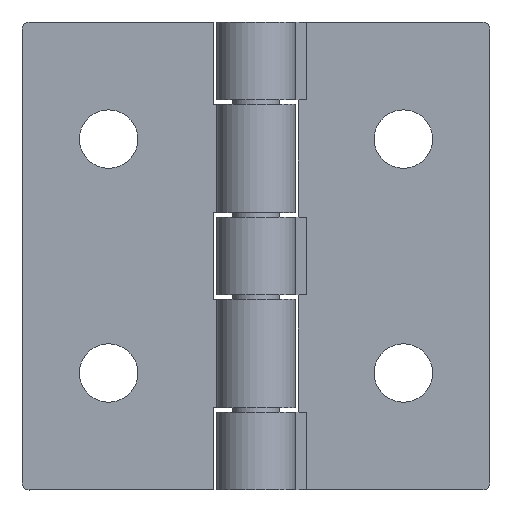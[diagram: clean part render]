
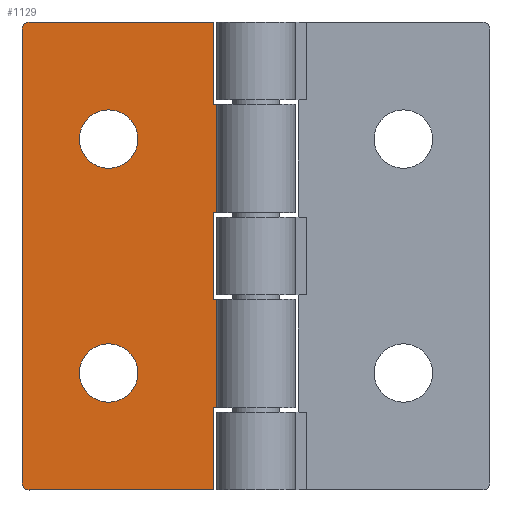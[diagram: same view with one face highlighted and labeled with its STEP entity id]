
A CAD part, top view. The second image highlights one B-rep face of the part: STEP entity #1129.
In plain terms, the highlighted planar face has unit normal (0, 0, 1).
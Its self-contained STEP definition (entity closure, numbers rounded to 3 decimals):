
#75=PLANE('',#1270);
#125=CIRCLE('',#1271,6.25);
#126=CIRCLE('',#1272,6.25);
#127=CIRCLE('',#1273,1.5);
#128=CIRCLE('',#1274,1.5);
#290=ORIENTED_EDGE('',*,*,#528,.F.);
#291=ORIENTED_EDGE('',*,*,#529,.F.);
#292=ORIENTED_EDGE('',*,*,#530,.T.);
#293=ORIENTED_EDGE('',*,*,#531,.T.);
#294=ORIENTED_EDGE('',*,*,#532,.T.);
#295=ORIENTED_EDGE('',*,*,#533,.T.);
#296=ORIENTED_EDGE('',*,*,#534,.T.);
#297=ORIENTED_EDGE('',*,*,#535,.F.);
#298=ORIENTED_EDGE('',*,*,#536,.T.);
#299=ORIENTED_EDGE('',*,*,#537,.T.);
#300=ORIENTED_EDGE('',*,*,#538,.T.);
#301=ORIENTED_EDGE('',*,*,#526,.F.);
#302=ORIENTED_EDGE('',*,*,#539,.F.);
#303=ORIENTED_EDGE('',*,*,#540,.F.);
#304=ORIENTED_EDGE('',*,*,#523,.F.);
#305=ORIENTED_EDGE('',*,*,#541,.T.);
#523=EDGE_CURVE('',#654,#655,#758,.T.);
#526=EDGE_CURVE('',#656,#657,#760,.T.);
#528=EDGE_CURVE('',#658,#658,#125,.T.);
#529=EDGE_CURVE('',#659,#659,#126,.T.);
#530=EDGE_CURVE('',#660,#661,#761,.T.);
#531=EDGE_CURVE('',#661,#662,#127,.F.);
#532=EDGE_CURVE('',#662,#663,#762,.T.);
#533=EDGE_CURVE('',#663,#664,#763,.T.);
#534=EDGE_CURVE('',#664,#665,#764,.T.);
#535=EDGE_CURVE('',#666,#665,#765,.T.);
#536=EDGE_CURVE('',#666,#667,#766,.T.);
#537=EDGE_CURVE('',#667,#668,#767,.T.);
#538=EDGE_CURVE('',#668,#657,#768,.T.);
#539=EDGE_CURVE('',#669,#656,#769,.T.);
#540=EDGE_CURVE('',#655,#669,#770,.T.);
#541=EDGE_CURVE('',#654,#660,#128,.F.);
#654=VERTEX_POINT('',#1831);
#655=VERTEX_POINT('',#1833);
#656=VERTEX_POINT('',#1837);
#657=VERTEX_POINT('',#1839);
#658=VERTEX_POINT('',#1843);
#659=VERTEX_POINT('',#1845);
#660=VERTEX_POINT('',#1847);
#661=VERTEX_POINT('',#1848);
#662=VERTEX_POINT('',#1850);
#663=VERTEX_POINT('',#1852);
#664=VERTEX_POINT('',#1854);
#665=VERTEX_POINT('',#1856);
#666=VERTEX_POINT('',#1858);
#667=VERTEX_POINT('',#1860);
#668=VERTEX_POINT('',#1862);
#669=VERTEX_POINT('',#1865);
#758=LINE('',#1832,#865);
#760=LINE('',#1838,#867);
#761=LINE('',#1846,#868);
#762=LINE('',#1851,#869);
#763=LINE('',#1853,#870);
#764=LINE('',#1855,#871);
#765=LINE('',#1857,#872);
#766=LINE('',#1859,#873);
#767=LINE('',#1861,#874);
#768=LINE('',#1863,#875);
#769=LINE('',#1864,#876);
#770=LINE('',#1866,#877);
#865=VECTOR('',#1487,1000.);
#867=VECTOR('',#1493,1000.);
#868=VECTOR('',#1502,1000.);
#869=VECTOR('',#1505,1000.);
#870=VECTOR('',#1506,1000.);
#871=VECTOR('',#1507,1000.);
#872=VECTOR('',#1508,1000.);
#873=VECTOR('',#1509,1000.);
#874=VECTOR('',#1510,1000.);
#875=VECTOR('',#1511,1000.);
#876=VECTOR('',#1512,1000.);
#877=VECTOR('',#1513,1000.);
#955=EDGE_LOOP('',(#290));
#956=EDGE_LOOP('',(#291));
#957=EDGE_LOOP('',(#292,#293,#294,#295,#296,#297,#298,#299,#300,#301,#302,
#303,#304,#305));
#1034=FACE_BOUND('',#955,.T.);
#1035=FACE_BOUND('',#956,.T.);
#1036=FACE_BOUND('',#957,.T.);
#1129=ADVANCED_FACE('',(#1034,#1035,#1036),#75,.F.);
#1270=AXIS2_PLACEMENT_3D('',#1841,#1496,#1497);
#1271=AXIS2_PLACEMENT_3D('',#1842,#1498,#1499);
#1272=AXIS2_PLACEMENT_3D('',#1844,#1500,#1501);
#1273=AXIS2_PLACEMENT_3D('',#1849,#1503,#1504);
#1274=AXIS2_PLACEMENT_3D('',#1867,#1514,#1515);
#1487=DIRECTION('',(-1.,0.,0.));
#1493=DIRECTION('',(0.,1.,0.));
#1496=DIRECTION('',(0.,0.,-1.));
#1497=DIRECTION('',(-1.,0.,0.));
#1498=DIRECTION('',(0.,0.,1.));
#1499=DIRECTION('',(1.,0.,0.));
#1500=DIRECTION('',(0.,0.,1.));
#1501=DIRECTION('',(1.,0.,0.));
#1502=DIRECTION('',(0.,1.,0.));
#1503=DIRECTION('',(0.,0.,-1.));
#1504=DIRECTION('',(-1.,0.,0.));
#1505=DIRECTION('',(-1.,0.,0.));
#1506=DIRECTION('',(0.,-1.,0.));
#1507=DIRECTION('',(-1.,0.,0.));
#1508=DIRECTION('',(0.,1.,0.));
#1509=DIRECTION('',(1.,0.,0.));
#1510=DIRECTION('',(0.,-1.,0.));
#1511=DIRECTION('',(-1.,0.,0.));
#1512=DIRECTION('',(-1.,0.,0.));
#1513=DIRECTION('',(0.,1.,0.));
#1514=DIRECTION('',(0.,0.,-1.));
#1515=DIRECTION('',(-1.,0.,0.));
#1831=CARTESIAN_POINT('',(-46.228,0.,3.));
#1832=CARTESIAN_POINT('',(-44.728,0.,3.));
#1833=CARTESIAN_POINT('',(-85.728,0.,3.));
#1837=CARTESIAN_POINT('',(-94.728,17.6,3.));
#1838=CARTESIAN_POINT('',(-94.728,0.,3.));
#1839=CARTESIAN_POINT('',(-94.728,40.7,3.));
#1841=CARTESIAN_POINT('',(-44.728,0.,3.));
#1842=CARTESIAN_POINT('',(-63.228,25.,3.));
#1843=CARTESIAN_POINT('',(-56.978,25.,3.));
#1844=CARTESIAN_POINT('',(-63.228,75.,3.));
#1845=CARTESIAN_POINT('',(-56.978,75.,3.));
#1846=CARTESIAN_POINT('',(-44.728,0.,3.));
#1847=CARTESIAN_POINT('',(-44.728,1.5,3.));
#1848=CARTESIAN_POINT('',(-44.728,98.5,3.));
#1849=CARTESIAN_POINT('',(-46.228,98.5,3.));
#1850=CARTESIAN_POINT('',(-46.228,100.,3.));
#1851=CARTESIAN_POINT('',(-44.728,100.,3.));
#1852=CARTESIAN_POINT('',(-85.728,100.,3.));
#1853=CARTESIAN_POINT('',(-85.728,100.,3.));
#1854=CARTESIAN_POINT('',(-85.728,82.4,3.));
#1855=CARTESIAN_POINT('',(-85.728,82.4,3.));
#1856=CARTESIAN_POINT('',(-94.728,82.4,3.));
#1857=CARTESIAN_POINT('',(-94.728,0.,3.));
#1858=CARTESIAN_POINT('',(-94.728,59.3,3.));
#1859=CARTESIAN_POINT('',(-112.983,59.3,3.));
#1860=CARTESIAN_POINT('',(-85.728,59.3,3.));
#1861=CARTESIAN_POINT('',(-85.728,59.3,3.));
#1862=CARTESIAN_POINT('',(-85.728,40.7,3.));
#1863=CARTESIAN_POINT('',(-85.728,40.7,3.));
#1864=CARTESIAN_POINT('',(-85.728,17.6,3.));
#1865=CARTESIAN_POINT('',(-85.728,17.6,3.));
#1866=CARTESIAN_POINT('',(-85.728,0.,3.));
#1867=CARTESIAN_POINT('',(-46.228,1.5,3.));
